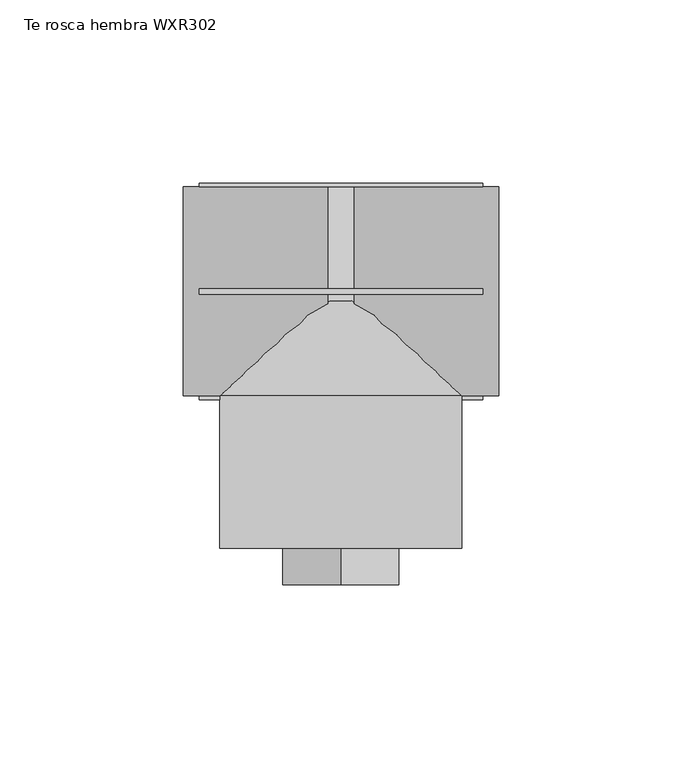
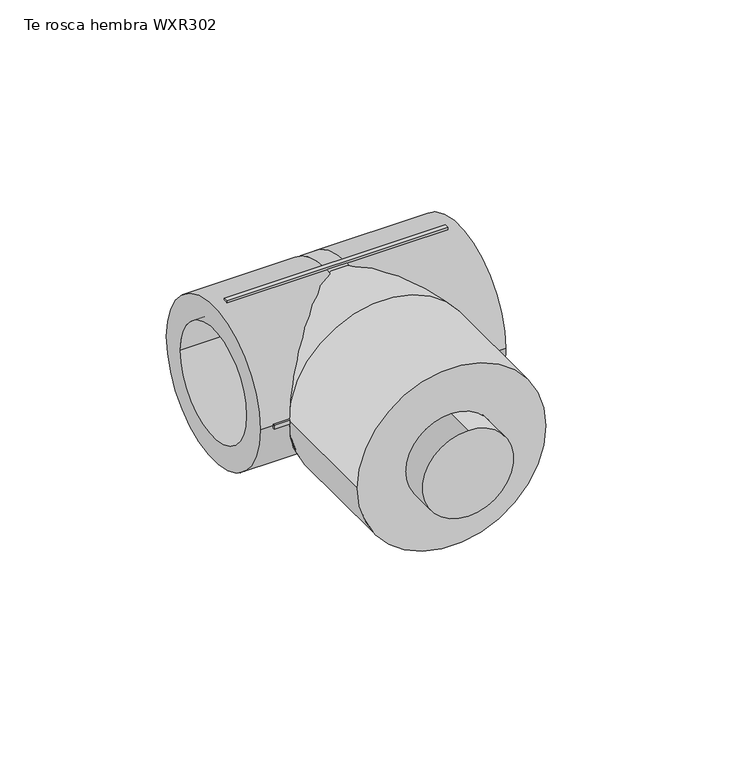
"""IFC4 building model written with IfcOpenShell, lengths in millimetres: pipe fitting geometry, EGB_VASEN_ PPR_Te rosca hembra WXR302 : Te rosca hembra WXR302."""

from ifc_helpers import new_model, si_unit, point, frame, origin, origin_2d, place, context, project, spatial, polyline, circle_curve, trimmed, segment, composite_curve, outline, extrude, source, transform, mapped, element, save
from ifc_brep_helpers import plane_surface, cylinder_surface, revolved_surface, advanced_brep


def te_rosca_hembra_wxr302_f9fe3209(model_context):
    return source(origin(), model_context, "Body", "SolidModel", [
        extrude(outline(composite_curve([segment(trimmed(circle_curve(origin_2d(), 15.875), [point((-15.875, 0.0))], [point((15.875, 0.0))], False, "CARTESIAN"), True, "CONTINUOUS"), segment(trimmed(circle_curve(origin_2d(), 15.875), [point((15.875, 0.0))], [point((-15.875, 0.0))], False, "CARTESIAN"), True, "CONTINUOUS")], self_intersect=False)), frame((0.0, -80.0, 0.0), z_axis=(0.0, 1.0, 0.0), x_axis=(0.0, 0.0, 1.0)), (0.0, 0.0, 1.0), 51.5),
        advanced_brep(
        [(3.44, -20.0, 0.0), (3.44, 20.0, 0.0), (-3.44, 20.0, 0.0), (-3.44, -20.0, 0.0), (-3.44, 28.5, 0.0), (3.44, 28.5, 0.0), (3.44, -28.5, 0.0), (-3.44, -28.5, 0.0), (43.0, -28.5, 0.0), (43.0, 28.5, 0.0), (43.0, -20.0, 0.0), (43.0, 20.0, 0.0), (-43.0, -28.5, 0.0), (-43.0, 28.5, 0.0), (-43.0, -20.0, 0.0), (-43.0, 20.0, 0.0)],
        [
            (0, 1, circle_curve(frame((3.44, 0.0, 0.0), z_axis=(1.0, 0.0, 0.0), x_axis=(0.0, 1.0, 0.0)), 20.0)),
            (1, 0, circle_curve(frame((3.44, 0.0, 0.0), z_axis=(1.0, 0.0, 0.0), x_axis=(0.0, 1.0, 0.0)), 20.0)),
            (2, 3, circle_curve(frame((-3.44, 0.0, 0.0), z_axis=(-1.0, 0.0, 0.0), x_axis=(0.0, 1.0, 0.0)), 20.0)),
            (3, 2, circle_curve(frame((-3.44, 0.0, 0.0), z_axis=(-1.0, 0.0, 0.0), x_axis=(0.0, 1.0, 0.0)), 20.0)),
            (4, 5),
            (5, 6, circle_curve(frame((3.44, 0.0, 0.0), z_axis=(-1.0, 0.0, 0.0), x_axis=(0.0, 0.0, -1.0)), 28.5)),
            (6, 7),
            (7, 4, circle_curve(frame((-3.44, 0.0, 0.0), z_axis=(1.0, 0.0, 0.0), x_axis=(0.0, 0.0, -1.0)), 28.5)),
            (4, 7, circle_curve(frame((-3.44, 0.0, 0.0), z_axis=(1.0, 0.0, 0.0), x_axis=(0.0, 0.0, 1.0)), 28.5)),
            (6, 5, circle_curve(frame((3.44, 0.0, 0.0), z_axis=(-1.0, 0.0, 0.0), x_axis=(0.0, 0.0, 1.0)), 28.5)),
            (8, 9, circle_curve(frame((43.0, 0.0, 0.0), z_axis=(1.0, 0.0, 0.0), x_axis=(0.0, 1.0, 0.0)), 28.5)),
            (9, 8, circle_curve(frame((43.0, 0.0, 0.0), z_axis=(1.0, 0.0, 0.0), x_axis=(0.0, 1.0, 0.0)), 28.5)),
            (10, 11, circle_curve(frame((43.0, 0.0, 0.0), z_axis=(-1.0, 0.0, 0.0), x_axis=(0.0, 1.0, 0.0)), 20.0)),
            (11, 10, circle_curve(frame((43.0, 0.0, 0.0), z_axis=(-1.0, 0.0, 0.0), x_axis=(0.0, 1.0, 0.0)), 20.0)),
            (9, 5),
            (6, 8),
            (11, 1),
            (0, 10),
            (12, 13, circle_curve(frame((-43.0, 0.0, 0.0), z_axis=(-1.0, 0.0, 0.0), x_axis=(0.0, 1.0, 0.0)), 28.5)),
            (13, 12, circle_curve(frame((-43.0, 0.0, 0.0), z_axis=(-1.0, 0.0, 0.0), x_axis=(0.0, 1.0, 0.0)), 28.5)),
            (14, 15, circle_curve(frame((-43.0, 0.0, 0.0), z_axis=(1.0, 0.0, 0.0), x_axis=(0.0, 1.0, 0.0)), 20.0)),
            (15, 14, circle_curve(frame((-43.0, 0.0, 0.0), z_axis=(1.0, 0.0, 0.0), x_axis=(0.0, 1.0, 0.0)), 20.0)),
            (12, 7),
            (4, 13),
            (14, 3),
            (2, 15),
        ],
        [
            plane_surface(frame((3.44, 0.0, 0.0), z_axis=(1.0, 0.0, 0.0), x_axis=(0.0, 0.0, -1.0))),
            plane_surface(frame((-3.44, 0.0, 0.0), z_axis=(-1.0, 0.0, 0.0), x_axis=(0.0, 0.0, -1.0))),
            cylinder_surface(frame((-3.44, 0.0, 0.0), z_axis=(1.0, 0.0, 0.0), x_axis=(0.0, 0.0, -1.0)), 28.5),
            cylinder_surface(frame((-3.44, 0.0, 0.0), z_axis=(1.0, 0.0, 0.0), x_axis=(0.0, 0.0, 1.0)), 28.5),
            plane_surface(frame((43.0, 0.0, 0.0), z_axis=(1.0, 0.0, 0.0), x_axis=(0.0, 0.0, 1.0))),
            cylinder_surface(frame((3.44, 0.0, 0.0), z_axis=(-1.0, 0.0, 0.0), x_axis=(0.0, 1.0, 0.0)), 28.5),
            revolved_surface(polyline([(43.0, 20.0, 0.0), (3.44, 20.0, 0.0)]), (3.44, 0.0, 0.0), (1.0, 0.0, 0.0)),
            plane_surface(frame((-43.0, 0.0, 0.0), z_axis=(-1.0, 0.0, 0.0), x_axis=(0.0, 0.0, 1.0))),
            cylinder_surface(frame((-43.0, 0.0, 0.0), z_axis=(-1.0, 0.0, 0.0), x_axis=(0.0, 1.0, 0.0)), 28.5),
            revolved_surface(polyline([(-3.4399999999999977, 20.0, 0.0), (-43.0, 20.0, 0.0)]), (-43.0, 0.0, 0.0), (1.0, 0.0, 0.0)),
        ],
        [
            (0, [[1, 2]]),
            (1, [[3, 4]]),
            (2, [[5, 6, 7, 8]]),
            (3, [[-5, 9, -7, 10]]),
            (4, [[11, 12], [13, 14]]),
            (5, [[-12, 15, -10, 16]]),
            (5, [[-11, -16, -6, -15]]),
            (6, [[-14, 17, -1, 18]]),
            (6, [[-13, -18, -2, -17]]),
            (7, [[19, 20], [21, 22]]),
            (8, [[-19, 23, -9, 24]]),
            (8, [[-20, -24, -8, -23]]),
            (9, [[-21, 25, -3, 26]]),
            (9, [[-22, -26, -4, -25]]),
        ],
    ),
        extrude(outline(composite_curve([segment(trimmed(circle_curve(origin_2d(), 33.0), [point((0.0, 33.0))], [point((0.0, -33.0))], False, "CARTESIAN"), True, "CONTINUOUS"), segment(trimmed(circle_curve(origin_2d(), 33.0), [point((0.0, -33.0))], [point((0.0, 33.0))], False, "CARTESIAN"), True, "CONTINUOUS")], self_intersect=False), holes=[composite_curve([segment(trimmed(circle_curve(origin_2d(), 15.875), [point((0.0, 15.875))], [point((0.0, -15.875))], True, "CARTESIAN"), True, "CONTINUOUS"), segment(trimmed(circle_curve(origin_2d(), 15.875), [point((0.0, -15.875))], [point((0.0, 15.875))], True, "CARTESIAN"), True, "CONTINUOUS")], self_intersect=False)]), frame((0.0, -70.0, 0.0), z_axis=(0.0, 1.0, 0.0), x_axis=(0.0, 0.0, 1.0)), (0.0, 0.0, 1.0), 41.5),
        advanced_brep(
        [(28.5, 0.0, 0.0), (-28.5, 0.0, 0.0), (33.0, -28.5, 0.0), (-33.0, -28.5, 0.0)],
        [
            (0, 1, circle_curve(frame((0.0, 0.0, 0.0), z_axis=(0.0, 1.0, 0.0), x_axis=(1.0, 0.0, 0.0)), 28.5)),
            (1, 0, circle_curve(frame((0.0, 0.0, 0.0), z_axis=(0.0, 1.0, 0.0), x_axis=(-1.0, 0.0, 0.0)), 28.5)),
            (2, 3, circle_curve(frame((0.0, -28.5, 0.0), z_axis=(0.0, -1.0, 0.0), x_axis=(-1.0, 0.0, 0.0)), 33.0)),
            (3, 2, circle_curve(frame((0.0, -28.5, 0.0), z_axis=(0.0, -1.0, 0.0), x_axis=(1.0, 0.0, 0.0)), 33.0)),
            (3, 1),
            (0, 2),
        ],
        [
            plane_surface(frame((0.0, 0.0, 0.0), z_axis=(0.0, 1.0, 0.0), x_axis=(0.0, 0.0, -1.0))),
            plane_surface(frame((0.0, -28.5, 0.0), z_axis=(0.0, -1.0, 0.0), x_axis=(0.0, 0.0, -1.0))),
            revolved_surface(polyline([(28.5, 0.0, 0.0), (33.0, -28.5, 0.0)]), (0.0, 180.5, 0.0), (0.0, -1.0, 0.0)),
            revolved_surface(polyline([(-28.5, 0.0, 0.0), (-33.0, -28.5, 0.0)]), (0.0, 180.5, 0.0), (0.0, -1.0, 0.0)),
        ],
        [
            (0, [[1, 2]]),
            (1, [[3, 4]]),
            (2, [[-4, 5, -1, 6]]),
            (3, [[-3, -6, -2, -5]]),
        ],
    ),
        extrude(outline(polyline([(38.7, 0.75), (38.7, -0.75), (-38.7, -0.75), (-38.7, 0.75), (38.7, 0.75)])), frame((0.0, 0.0, 27.5), z_axis=(0.0, 0.0, 1.0), x_axis=(1.0, 0.0, 0.0)), (0.0, 0.0, 1.0), 2.0),
        extrude(outline(polyline([(38.7, 0.75), (38.7, -0.75), (-38.7, -0.75), (-38.7, 0.75), (38.7, 0.75)])), frame((0.0, 0.0, -29.5), z_axis=(0.0, 0.0, 1.0), x_axis=(1.0, 0.0, 0.0)), (0.0, 0.0, 1.0), 2.0),
        extrude(outline(polyline([(38.7, 29.5), (38.7, 27.5), (-38.7, 27.5), (-38.7, 29.5), (38.7, 29.5)])), frame((0.0, 0.0, -0.75), z_axis=(0.0, 0.0, 1.0), x_axis=(1.0, 0.0, 0.0)), (0.0, 0.0, 1.0), 1.5),
        extrude(outline(polyline([(38.7, -27.5), (38.7, -29.5), (-38.7, -29.5), (-38.7, -27.5), (38.7, -27.5)])), frame((0.0, 0.0, -0.75), z_axis=(0.0, 0.0, 1.0), x_axis=(1.0, 0.0, 0.0)), (0.0, 0.0, 1.0), 1.5),
    ])


if __name__ == "__main__":
    model = new_model("IFC4")
    model_context = context("Model", 3, world=origin())
    ifc_project = project(units=[si_unit("LENGTHUNIT", "METRE", prefix="MILLI")], contexts=[model_context])
    site = spatial("IfcSite", under=ifc_project)
    building = spatial("IfcBuilding", under=site)
    placement = place(None, origin())
    te_rosca_hembra_wxr302_shape = te_rosca_hembra_wxr302_f9fe3209(model_context)
    element("IfcPipeFitting", 1, ObjectType="EGB_VASEN_ PPR_Te rosca hembra WXR302 : Te rosca hembra WXR302", at=placement, inside=building, context=model_context, shape_type="MappedRepresentation", body=[
        mapped(te_rosca_hembra_wxr302_shape, transform((0.0, 0.0, 0.0), x_axis=(1.0, 0.0, 0.0), y_axis=(0.0, 1.0, 0.0), z_axis=(0.0, 0.0, 1.0))),
    ])
    save(model, "model.ifc")
